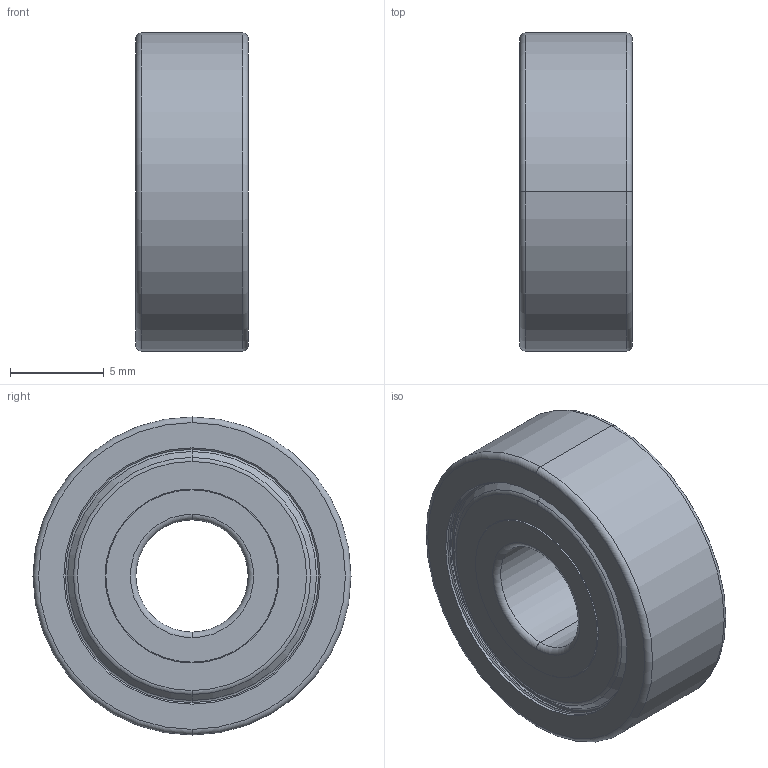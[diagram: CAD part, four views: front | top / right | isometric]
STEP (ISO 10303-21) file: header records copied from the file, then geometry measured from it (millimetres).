
FILE_DESCRIPTION((''),'2;1');
FILE_NAME('606ZZ_EA019','2025-12-19T16:15:59',('qinghui.yi'),(''),'CREO PARAMETRIC BY PTC INC, 2019164','CREO PARAMETRIC BY PTC INC, 2019164','');
FILE_SCHEMA(('CONFIG_CONTROL_DESIGN','SHAPE_APPEARANCE_LAYERS_GROUPS'));
Length unit declared in the file: millimetre
Products named in the file (1): 606ZZ_EA019
Bounding box: 6 x 17 x 17 mm (x, y, z)
Volume: 727.9 mm3; surface area: 1482.3 mm2
Topology: 2 solids, 2 shells, 88 faces, 180 edges, 106 vertices
Faces by surface type: torus 34, cylinder 24, cone 16, plane 14
Entity records: 2595 total; most frequent: DIRECTION 496, CARTESIAN_POINT 374, ORIENTED_EDGE 360, AXIS2_PLACEMENT_3D 228, COLOUR_RGB 196, EDGE_CURVE 180, CIRCLE 140, VERTEX_POINT 106
